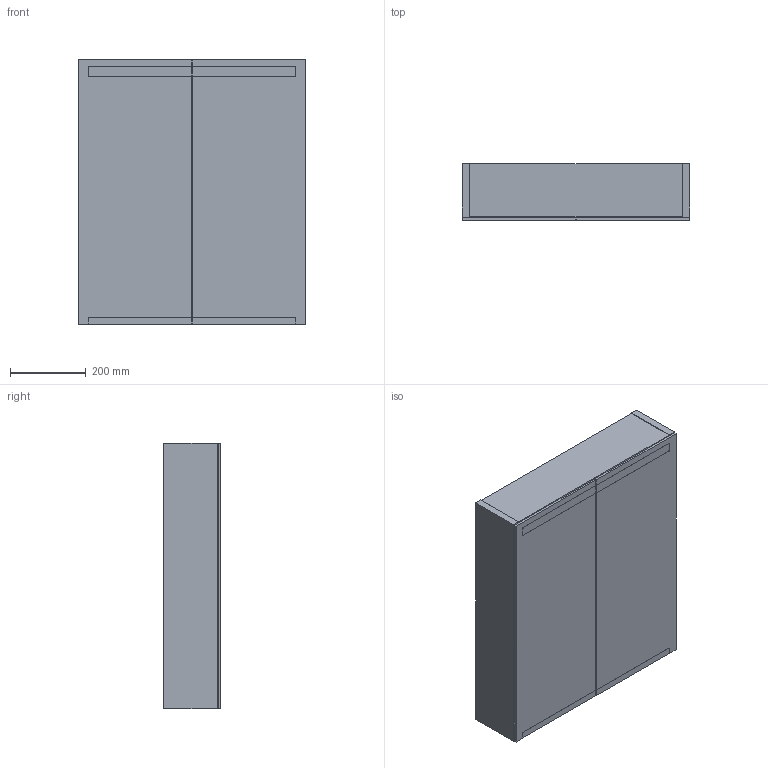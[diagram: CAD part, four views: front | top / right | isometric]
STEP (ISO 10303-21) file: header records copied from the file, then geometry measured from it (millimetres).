
FILE_DESCRIPTION(/* description */ (''),/* implementation_level */ '2;1');
FILE_NAME(/* name */ 'C:\Planerdaten\Export PLA\500.582.00.1\stp\500582.stp',/* time_stamp */ '2020-01-13T15:47:02+01:00',/* author */ ('JANAN'),/* organization */ (''),/* preprocessor_version */ 'ST-DEVELOPER v16.13',/* originating_system */ 'Autodesk Inventor 2018',/* authorisation */ '');
FILE_SCHEMA (('AUTOMOTIVE_DESIGN { 1 0 10303 214 3 1 1 }'));
Length unit declared in the file: millimetre
Products named in the file (1): SpglSchrk Ge+Opt B60 m/Bel 2-Tür
Bounding box: 600 x 150 x 700 mm (x, y, z)
Volume: 12956396 mm3; surface area: 2789598.5 mm2
Topology: 3 solids, 5 shells, 84 faces, 222 edges, 148 vertices
Faces by surface type: plane 78, cylinder 6
Entity records: 2697 total; most frequent: CARTESIAN_POINT 455, ORIENTED_EDGE 444, DIRECTION 404, EDGE_CURVE 222, LINE 210, VECTOR 210, VERTEX_POINT 148, AXIS2_PLACEMENT_3D 97
